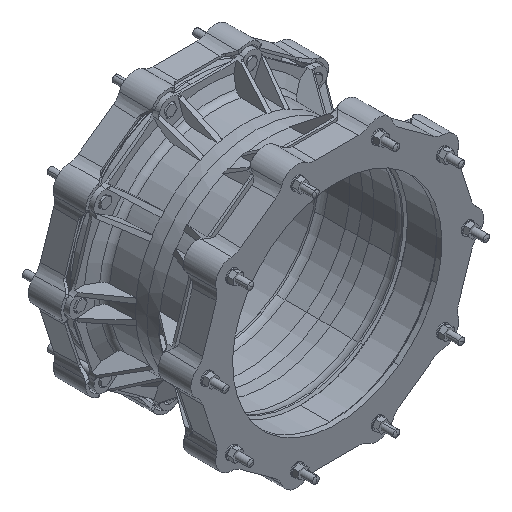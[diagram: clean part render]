
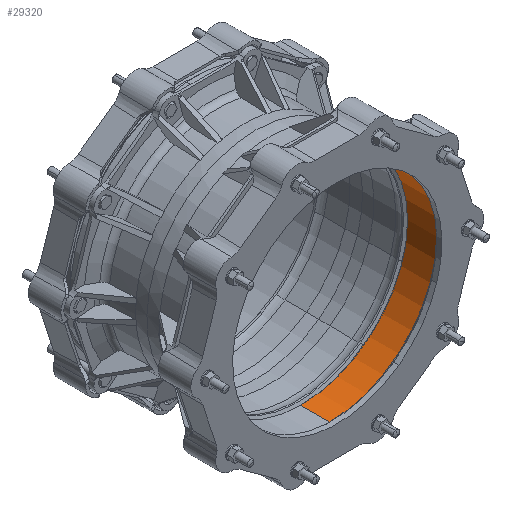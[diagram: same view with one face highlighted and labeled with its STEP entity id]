
A CAD part, isometric view. The second image highlights one B-rep face of the part: STEP entity #29320.
In plain terms, the highlighted cylindrical face has radius 313 mm (diameter 626 mm), a partial arc.
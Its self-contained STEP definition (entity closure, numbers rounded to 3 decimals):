
#29144=CARTESIAN_POINT('',(0.,-42.5,0.));
#29145=DIRECTION('',(0.,-1.,0.));
#29146=DIRECTION('',(0.,0.,-1.));
#29147=AXIS2_PLACEMENT_3D('',#29144,#29145,#29146);
#29154=DIRECTION('',(0.,-1.,0.));
#29155=VECTOR('',#29154,85.);
#29156=CARTESIAN_POINT('',(0.,42.5,-313.));
#29157=LINE('',#29156,#29155);
#29158=CARTESIAN_POINT('',(0.,42.5,0.));
#29159=DIRECTION('',(0.,-1.,0.));
#29160=DIRECTION('',(0.,0.,-1.));
#29161=AXIS2_PLACEMENT_3D('',#29158,#29159,#29160);
#29163=DIRECTION('',(0.,-1.,0.));
#29164=VECTOR('',#29163,85.);
#29165=CARTESIAN_POINT('',(0.,42.5,313.));
#29166=LINE('',#29165,#29164);
#29201=CARTESIAN_POINT('',(0.,42.5,-313.));
#29202=CARTESIAN_POINT('',(0.,-42.5,-313.));
#29203=VERTEX_POINT('',#29201);
#29204=VERTEX_POINT('',#29202);
#29211=CARTESIAN_POINT('',(0.,42.5,313.));
#29212=CARTESIAN_POINT('',(0.,-42.5,313.));
#29213=VERTEX_POINT('',#29211);
#29214=VERTEX_POINT('',#29212);
#29308=CARTESIAN_POINT('',(0.,-46.75,0.));
#29309=DIRECTION('',(0.,1.,0.));
#29310=DIRECTION('',(0.,0.,-1.));
#29311=AXIS2_PLACEMENT_3D('',#29308,#29309,#29310);
#29312=CYLINDRICAL_SURFACE('',#29311,313.);
#29313=ORIENTED_EDGE('',*,*,#29298,.F.);
#29315=ORIENTED_EDGE('',*,*,#29314,.T.);
#29316=ORIENTED_EDGE('',*,*,#29301,.T.);
#29317=ORIENTED_EDGE('',*,*,#29288,.F.);
#29318=EDGE_LOOP('',(#29313,#29315,#29316,#29317));
#29319=FACE_OUTER_BOUND('',#29318,.F.);
#29320=ADVANCED_FACE('',(#29319),#29312,.F.);
#29148=CIRCLE('',#29147,313.);
#29162=CIRCLE('',#29161,313.);
#29288=EDGE_CURVE('',#29204,#29214,#29148,.T.);
#29298=EDGE_CURVE('',#29203,#29204,#29157,.T.);
#29301=EDGE_CURVE('',#29213,#29214,#29166,.T.);
#29314=EDGE_CURVE('',#29203,#29213,#29162,.T.);
